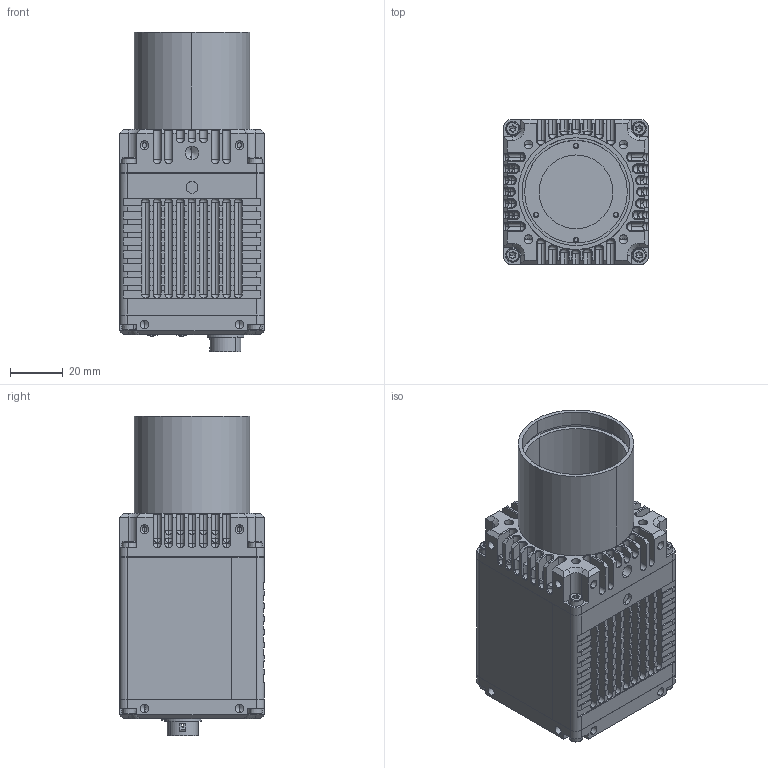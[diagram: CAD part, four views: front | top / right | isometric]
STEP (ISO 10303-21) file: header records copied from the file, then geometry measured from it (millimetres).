
FILE_DESCRIPTION (( 'STEP AP214' ), '1' );
FILE_NAME ('4068003_Goldeye G-032 SWIR TEC1 M42-Mount (M42-Mount Chunghwa 640x512).STEP', '2023-07-24T14:17:22', ( '' ), ( '' ), 'SwSTEP 2.0', 'SolidWorks 2021', '' );
FILE_SCHEMA (( 'AUTOMOTIVE_DESIGN' ));
Length unit declared in the file: millimetre
Products named in the file (1): 4068003_Goldeye G-032 SWIR TEC1 M42-Mount (M42-Mount Chunghwa 640x512)
Bounding box: 55.01 x 55 x 121.1 mm (x, y, z)
Surface area: 90030.1 mm2 (no closed solid volume)
Topology: 0 solids, 54 shells, 3788 faces, 10059 edges, 6328 vertices
Faces by surface type: plane 1726, cylinder 1264, bspline 385, cone 248, sphere 98, torus 67
Entity records: 169670 total; most frequent: CARTESIAN_POINT 35777, ORIENTED_EDGE 19694, DIRECTION 18135, EDGE_CURVE 9847, VERTEX_POINT 6314, VECTOR 6159, LINE 6159, AXIS2_PLACEMENT_3D 5988
